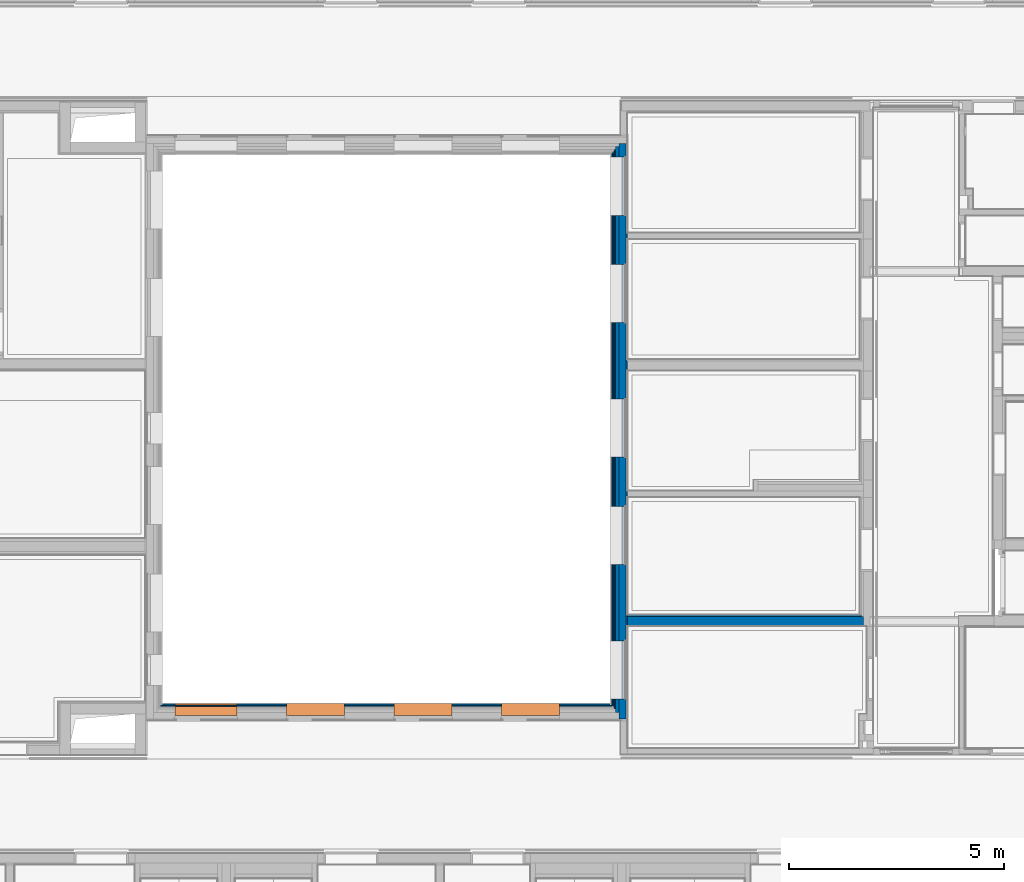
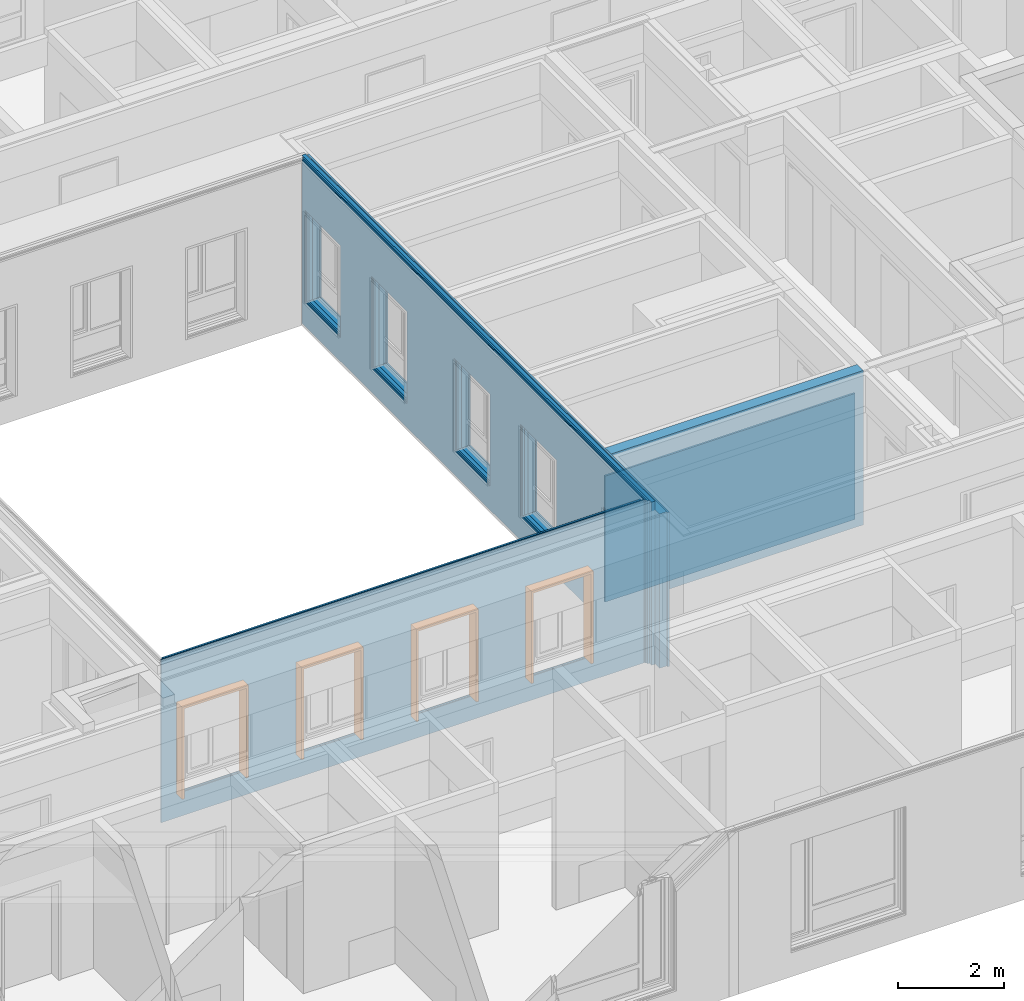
# One storey, part 47 of 222: 10 walls, 4 proxies, 38 openings.
"""IFC4 building model written with IfcOpenShell, lengths in metres."""

from ifc_helpers import new_model, entity, si_unit, converted_unit, derived_unit, frame, frame_2d, origin, origin_with_axes, place, context, subcontext, project, spatial, polyline, rectangle, outline, extrude, faceted_brep, material, element, fill, save


model = new_model("IFC4")

# Units and contexts
model_context = context("Model", 3, precision=1e-05, world=origin())
body_context = subcontext(model_context, "Body", "Model", "MODEL_VIEW")
ifc_project = project(units=[si_unit("LENGTHUNIT", "METRE"), si_unit("AREAUNIT", "SQUARE_METRE"), si_unit("VOLUMEUNIT", "CUBIC_METRE"), si_unit("MASSUNIT", "GRAM", prefix="KILO"), converted_unit("PLANEANGLEUNIT", "DEGREE", entity("IfcPlaneAngleMeasure", 0.0174532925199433), si_unit("PLANEANGLEUNIT", "RADIAN"), dimensions=[0, 0, 0, 0, 0, 0, 0]), derived_unit("THERMALTRANSMITTANCEUNIT", [(si_unit("POWERUNIT", "WATT"), 1), (si_unit("THERMODYNAMICTEMPERATUREUNIT", "KELVIN"), -1), (si_unit("LENGTHUNIT", "METRE"), -2)]), derived_unit("VOLUMETRICFLOWRATEUNIT", [(si_unit("LENGTHUNIT", "METRE"), 3), (converted_unit("TIMEUNIT", "hour", entity("IfcTimeMeasure", 3600.0), si_unit("TIMEUNIT", "SECOND"), dimensions=[0, 0, 1, 0, 0, 0, 0]), -1), (si_unit("LENGTHUNIT", "METRE"), -1)])], contexts=[model_context])

# Site, building, storey
site_placement = place(None, origin())
site = spatial("IfcSite", under=ifc_project, at=site_placement, Name="Psychiatrie Neubau Wunstorf", CompositionType="ELEMENT")
building_placement = place(site_placement, origin())
building = spatial("IfcBuilding", under=site, at=building_placement, Name="Neubau H2 Stationsgebäude", CompositionType="ELEMENT")
storey_placement = place(building_placement, frame((0.0, 0.0, 3.6)))
storey = spatial("IfcBuildingStorey", under=building, at=storey_placement, Name="H2 Ebene +1", CompositionType="ELEMENT", Elevation=3.6)

# Wall, openings
ifc_material_1 = material(Name="WA-LB")
wall_1_placement = place(storey_placement, frame((90.361, 8.41400000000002, 0.0), z_axis=(0.0, 0.0, 1.0), x_axis=(0.0, 1.0, 0.0)))
wall_1 = element("IfcWall", 1, at=wall_1_placement, inside=storey, material=ifc_material_1, context=body_context, shape_type="SweptSolid", body=[
    extrude(rectangle(XDim=13.5860065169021, YDim=0.0360000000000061, at=frame_2d((6.79300325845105, 0.018000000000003), x_axis=(1.0, 0.0))), origin_with_axes(), (0.0, 0.0, 1.0), 3.55),
])
opening_1_placement = place(wall_1_placement, frame((13.1105718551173, 0.0359999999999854, 0.55), z_axis=(0.0, -1.0, 0.0), x_axis=(0.0, 0.0, 1.0)))
element("IfcOpeningElement", 2, at=opening_1_placement, cuts=wall_1, Name="Fensteröffnung", ObjectType="Opening", context=body_context, shape_type="SweptSolid", body=[
    extrude(outline(polyline([(2.115, 1.35), (2.115, 0.0), (0.0, 0.0), (0.0, 1.35), (2.115, 1.35)])), origin_with_axes(), (0.0, 0.0, 1.0), 0.036),
])
opening_2_placement = place(wall_1_placement, frame((10.6106294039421, 0.0360000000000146, 0.55), z_axis=(0.0, -1.0, 0.0), x_axis=(0.0, 0.0, 1.0)))
element("IfcOpeningElement", 3, at=opening_2_placement, cuts=wall_1, Name="Fensteröffnung", ObjectType="Opening", context=body_context, shape_type="SweptSolid", body=[
    extrude(outline(polyline([(2.115, 1.35), (2.115, 0.0), (0.0, 0.0), (0.0, 1.35), (2.115, 1.35)])), origin_with_axes(), (0.0, 0.0, 1.0), 0.036),
])
opening_3_placement = place(wall_1_placement, frame((7.4860119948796, 0.036, 0.55), z_axis=(0.0, -1.0, 0.0), x_axis=(0.0, 0.0, 1.0)))
element("IfcOpeningElement", 4, at=opening_3_placement, cuts=wall_1, Name="Fensteröffnung", ObjectType="Opening", context=body_context, shape_type="SweptSolid", body=[
    extrude(outline(polyline([(2.115, 1.35), (2.115, 0.0), (0.0, 0.0), (0.0, 1.35), (2.115, 1.35)])), origin_with_axes(), (0.0, 0.0, 1.0), 0.036),
])
opening_4_placement = place(wall_1_placement, frame((4.98601199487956, 0.0359999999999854, 0.55), z_axis=(0.0, -1.0, 0.0), x_axis=(0.0, 0.0, 1.0)))
element("IfcOpeningElement", 5, at=opening_4_placement, cuts=wall_1, Name="Fensteröffnung", ObjectType="Opening", context=body_context, shape_type="SweptSolid", body=[
    extrude(outline(polyline([(2.115, 1.35), (2.115, 0.0), (0.0, 0.0), (0.0, 1.35), (2.115, 1.35)])), origin_with_axes(), (0.0, 0.0, 1.0), 0.036),
])
opening_5_placement = place(wall_1_placement, frame((1.86173687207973, 0.036, 0.55), z_axis=(0.0, -1.0, 0.0), x_axis=(0.0, 0.0, 1.0)))
element("IfcOpeningElement", 6, at=opening_5_placement, cuts=wall_1, Name="Fensteröffnung", ObjectType="Opening", context=body_context, shape_type="SweptSolid", body=[
    extrude(outline(polyline([(2.115, 1.35), (2.115, 0.0), (0.0, 0.0), (0.0, 1.35), (2.115, 1.35)])), origin_with_axes(), (0.0, 0.0, 1.0), 0.036),
])

ifc_material_2 = material(Name="WA-DL")
wall_2_placement = place(storey_placement, frame((90.325, 8.45000000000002, 0.0), z_axis=(0.0, 0.0, 1.0), x_axis=(0.0, 1.0, 0.0)))
wall_2 = element("IfcWall", 7, at=wall_2_placement, inside=storey, material=ifc_material_2, context=body_context, shape_type="SweptSolid", body=[
    extrude(rectangle(XDim=13.390001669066, YDim=0.16, at=frame_2d((6.69500083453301, 0.08), x_axis=(1.0, 0.0))), origin_with_axes(), (0.0, 0.0, 1.0), 3.55),
])
opening_6_placement = place(wall_2_placement, frame((1.82573687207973, 0.16, 0.55), z_axis=(0.0, -1.0, 0.0), x_axis=(0.0, 0.0, 1.0)))
element("IfcOpeningElement", 8, at=opening_6_placement, cuts=wall_2, Name="Fensteröffnung", ObjectType="Opening", context=body_context, shape_type="SweptSolid", body=[
    extrude(outline(polyline([(2.115, 1.35), (2.115, 0.0), (0.0, 0.0), (0.0, 1.35), (2.115, 1.35)])), origin_with_axes(), (0.0, 0.0, 1.0), 0.16),
])
opening_7_placement = place(wall_2_placement, frame((4.95001199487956, 0.159999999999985, 0.55), z_axis=(0.0, -1.0, 0.0), x_axis=(0.0, 0.0, 1.0)))
element("IfcOpeningElement", 9, at=opening_7_placement, cuts=wall_2, Name="Fensteröffnung", ObjectType="Opening", context=body_context, shape_type="SweptSolid", body=[
    extrude(outline(polyline([(2.115, 1.35), (2.115, 0.0), (0.0, 0.0), (0.0, 1.35), (2.115, 1.35)])), origin_with_axes(), (0.0, 0.0, 1.0), 0.16),
])
opening_8_placement = place(wall_2_placement, frame((7.45001199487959, 0.16, 0.55), z_axis=(0.0, -1.0, 0.0), x_axis=(0.0, 0.0, 1.0)))
element("IfcOpeningElement", 10, at=opening_8_placement, cuts=wall_2, Name="Fensteröffnung", ObjectType="Opening", context=body_context, shape_type="SweptSolid", body=[
    extrude(outline(polyline([(2.115, 1.35), (2.115, 0.0), (0.0, 0.0), (0.0, 1.35), (2.115, 1.35)])), origin_with_axes(), (0.0, 0.0, 1.0), 0.16),
])
opening_9_placement = place(wall_2_placement, frame((10.5746294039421, 0.160000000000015, 0.55), z_axis=(0.0, -1.0, 0.0), x_axis=(0.0, 0.0, 1.0)))
element("IfcOpeningElement", 11, at=opening_9_placement, cuts=wall_2, Name="Fensteröffnung", ObjectType="Opening", context=body_context, shape_type="SweptSolid", body=[
    extrude(outline(polyline([(2.115, 1.35), (2.115, 0.0), (0.0, 0.0), (0.0, 1.35), (2.115, 1.35)])), origin_with_axes(), (0.0, 0.0, 1.0), 0.16),
])
opening_10_placement = place(wall_2_placement, frame((13.0745718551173, 0.159999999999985, 0.55), z_axis=(0.0, -1.0, 0.0), x_axis=(0.0, 0.0, 1.0)))
element("IfcOpeningElement", 12, at=opening_10_placement, cuts=wall_2, Name="Fensteröffnung", ObjectType="Opening", context=body_context, shape_type="SweptSolid", body=[
    extrude(outline(polyline([(2.115, 1.35), (2.115, 0.0), (0.0, 0.0), (0.0, 1.35), (2.115, 1.35)])), origin_with_axes(), (0.0, 0.0, 1.0), 0.16),
])

ifc_material_3 = material(Name="WA-DL")
wall_3_placement = place(storey_placement, frame((90.165, 8.61000000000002, 0.0), z_axis=(0.0, 0.0, 1.0), x_axis=(0.0, 1.0, 0.0)))
wall_3 = element("IfcWall", 13, at=wall_3_placement, inside=storey, material=ifc_material_3, context=body_context, shape_type="SweptSolid", body=[
    extrude(rectangle(XDim=13.170001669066, YDim=0.08, at=frame_2d((6.585000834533, 0.04), x_axis=(1.0, 0.0))), origin_with_axes(), (0.0, 0.0, 1.0), 3.75),
])
opening_11_placement = place(wall_3_placement, frame((1.66573687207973, 0.08, 0.55), z_axis=(0.0, -1.0, 0.0), x_axis=(0.0, 0.0, 1.0)))
element("IfcOpeningElement", 14, at=opening_11_placement, cuts=wall_3, Name="Fensteröffnung", ObjectType="Opening", context=body_context, shape_type="SweptSolid", body=[
    extrude(outline(polyline([(2.115, 1.35), (2.115, 0.0), (0.0, 0.0), (0.0, 1.35), (2.115, 1.35)])), origin_with_axes(), (0.0, 0.0, 1.0), 0.08),
])
opening_12_placement = place(wall_3_placement, frame((4.79001199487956, 0.0799999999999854, 0.55), z_axis=(0.0, -1.0, 0.0), x_axis=(0.0, 0.0, 1.0)))
element("IfcOpeningElement", 15, at=opening_12_placement, cuts=wall_3, Name="Fensteröffnung", ObjectType="Opening", context=body_context, shape_type="SweptSolid", body=[
    extrude(outline(polyline([(2.115, 1.35), (2.115, 0.0), (0.0, 0.0), (0.0, 1.35), (2.115, 1.35)])), origin_with_axes(), (0.0, 0.0, 1.0), 0.08),
])
opening_13_placement = place(wall_3_placement, frame((7.29001199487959, 0.08, 0.55), z_axis=(0.0, -1.0, 0.0), x_axis=(0.0, 0.0, 1.0)))
element("IfcOpeningElement", 16, at=opening_13_placement, cuts=wall_3, Name="Fensteröffnung", ObjectType="Opening", context=body_context, shape_type="SweptSolid", body=[
    extrude(outline(polyline([(2.115, 1.35), (2.115, 0.0), (0.0, 0.0), (0.0, 1.35), (2.115, 1.35)])), origin_with_axes(), (0.0, 0.0, 1.0), 0.08),
])
opening_14_placement = place(wall_3_placement, frame((10.4146294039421, 0.0800000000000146, 0.55), z_axis=(0.0, -1.0, 0.0), x_axis=(0.0, 0.0, 1.0)))
element("IfcOpeningElement", 17, at=opening_14_placement, cuts=wall_3, Name="Fensteröffnung", ObjectType="Opening", context=body_context, shape_type="SweptSolid", body=[
    extrude(outline(polyline([(2.115, 1.35), (2.115, 0.0), (0.0, 0.0), (0.0, 1.35), (2.115, 1.35)])), origin_with_axes(), (0.0, 0.0, 1.0), 0.08),
])
opening_15_placement = place(wall_3_placement, frame((12.9145718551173, 0.0799999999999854, 0.55), z_axis=(0.0, -1.0, 0.0), x_axis=(0.0, 0.0, 1.0)))
element("IfcOpeningElement", 18, at=opening_15_placement, cuts=wall_3, Name="Fensteröffnung", ObjectType="Opening", context=body_context, shape_type="SweptSolid", body=[
    extrude(outline(polyline([(2.115, 1.35), (2.115, 0.0), (0.0, 0.0), (0.0, 1.35), (2.115, 1.35)])), origin_with_axes(), (0.0, 0.0, 1.0), 0.08),
])

ifc_material_4 = material(Name="WA-LB")
wall_4_placement = place(storey_placement, frame((90.085, 8.69000918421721, 0.0), z_axis=(0.0, 0.0, 1.0), x_axis=(0.0, 1.0, 0.0)))
wall_4 = element("IfcWall", 19, at=wall_4_placement, inside=storey, material=ifc_material_4, context=body_context, shape_type="SweptSolid", body=[
    extrude(rectangle(XDim=13.0099924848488, YDim=0.036, at=frame_2d((6.50499624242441, 0.018), x_axis=(1.0, 0.0))), origin_with_axes(), (0.0, 0.0, 1.0), 3.75),
])
opening_16_placement = place(wall_4_placement, frame((1.58572768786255, 0.036, 0.55), z_axis=(0.0, -1.0, 0.0), x_axis=(0.0, 0.0, 1.0)))
element("IfcOpeningElement", 20, at=opening_16_placement, cuts=wall_4, Name="Fensteröffnung", ObjectType="Opening", context=body_context, shape_type="SweptSolid", body=[
    extrude(outline(polyline([(2.115, 1.35), (2.115, 0.0), (0.0, 0.0), (0.0, 1.35), (2.115, 1.35)])), origin_with_axes(), (0.0, 0.0, 1.0), 0.036),
])
opening_17_placement = place(wall_4_placement, frame((4.71000281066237, 0.0359999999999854, 0.55), z_axis=(0.0, -1.0, 0.0), x_axis=(0.0, 0.0, 1.0)))
element("IfcOpeningElement", 21, at=opening_17_placement, cuts=wall_4, Name="Fensteröffnung", ObjectType="Opening", context=body_context, shape_type="SweptSolid", body=[
    extrude(outline(polyline([(2.115, 1.35), (2.115, 0.0), (0.0, 0.0), (0.0, 1.35), (2.115, 1.35)])), origin_with_axes(), (0.0, 0.0, 1.0), 0.036),
])
opening_18_placement = place(wall_4_placement, frame((7.21000281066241, 0.036, 0.55), z_axis=(0.0, -1.0, 0.0), x_axis=(0.0, 0.0, 1.0)))
element("IfcOpeningElement", 22, at=opening_18_placement, cuts=wall_4, Name="Fensteröffnung", ObjectType="Opening", context=body_context, shape_type="SweptSolid", body=[
    extrude(outline(polyline([(2.115, 1.35), (2.115, 0.0), (0.0, 0.0), (0.0, 1.35), (2.115, 1.35)])), origin_with_axes(), (0.0, 0.0, 1.0), 0.036),
])
opening_19_placement = place(wall_4_placement, frame((10.3346202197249, 0.0360000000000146, 0.55), z_axis=(0.0, -1.0, 0.0), x_axis=(0.0, 0.0, 1.0)))
element("IfcOpeningElement", 23, at=opening_19_placement, cuts=wall_4, Name="Fensteröffnung", ObjectType="Opening", context=body_context, shape_type="SweptSolid", body=[
    extrude(outline(polyline([(2.115, 1.35), (2.115, 0.0), (0.0, 0.0), (0.0, 1.35), (2.115, 1.35)])), origin_with_axes(), (0.0, 0.0, 1.0), 0.036),
])
opening_20_placement = place(wall_4_placement, frame((12.8345626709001, 0.0359999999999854, 0.55), z_axis=(0.0, -1.0, 0.0), x_axis=(0.0, 0.0, 1.0)))
element("IfcOpeningElement", 24, at=opening_20_placement, cuts=wall_4, Name="Fensteröffnung", ObjectType="Opening", context=body_context, shape_type="SweptSolid", body=[
    extrude(outline(polyline([(2.115, 1.35), (2.115, 0.0), (0.0, 0.0), (0.0, 1.35), (2.115, 1.35)])), origin_with_axes(), (0.0, 0.0, 1.0), 0.036),
])

ifc_material_5 = material(Name="WA-KL")
wall_5_placement = place(storey_placement, frame((90.049, 8.72600918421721, 0.0), z_axis=(0.0, 0.0, 1.0), x_axis=(0.0, 1.0, 0.0)))
wall_5 = element("IfcWall", 25, at=wall_5_placement, inside=storey, material=ifc_material_5, context=body_context, shape_type="SweptSolid", body=[
    extrude(rectangle(XDim=12.9379924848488, YDim=0.024, at=frame_2d((6.46899624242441, 0.012), x_axis=(1.0, 0.0))), origin_with_axes(), (0.0, 0.0, 1.0), 3.75),
])
opening_21_placement = place(wall_5_placement, frame((1.54972768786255, 0.024, 0.55), z_axis=(0.0, -1.0, 0.0), x_axis=(0.0, 0.0, 1.0)))
element("IfcOpeningElement", 26, at=opening_21_placement, cuts=wall_5, Name="Fensteröffnung", ObjectType="Opening", context=body_context, shape_type="SweptSolid", body=[
    extrude(outline(polyline([(2.115, 1.35), (2.115, 0.0), (0.0, 0.0), (0.0, 1.35), (2.115, 1.35)])), origin_with_axes(), (0.0, 0.0, 1.0), 0.024),
])
opening_22_placement = place(wall_5_placement, frame((4.67400281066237, 0.0239999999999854, 0.55), z_axis=(0.0, -1.0, 0.0), x_axis=(0.0, 0.0, 1.0)))
element("IfcOpeningElement", 27, at=opening_22_placement, cuts=wall_5, Name="Fensteröffnung", ObjectType="Opening", context=body_context, shape_type="SweptSolid", body=[
    extrude(outline(polyline([(2.115, 1.35), (2.115, 0.0), (0.0, 0.0), (0.0, 1.35), (2.115, 1.35)])), origin_with_axes(), (0.0, 0.0, 1.0), 0.024),
])
opening_23_placement = place(wall_5_placement, frame((7.17400281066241, 0.024, 0.55), z_axis=(0.0, -1.0, 0.0), x_axis=(0.0, 0.0, 1.0)))
element("IfcOpeningElement", 28, at=opening_23_placement, cuts=wall_5, Name="Fensteröffnung", ObjectType="Opening", context=body_context, shape_type="SweptSolid", body=[
    extrude(outline(polyline([(2.115, 1.35), (2.115, 0.0), (0.0, 0.0), (0.0, 1.35), (2.115, 1.35)])), origin_with_axes(), (0.0, 0.0, 1.0), 0.024),
])
opening_24_placement = place(wall_5_placement, frame((10.2986202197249, 0.0240000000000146, 0.55), z_axis=(0.0, -1.0, 0.0), x_axis=(0.0, 0.0, 1.0)))
element("IfcOpeningElement", 29, at=opening_24_placement, cuts=wall_5, Name="Fensteröffnung", ObjectType="Opening", context=body_context, shape_type="SweptSolid", body=[
    extrude(outline(polyline([(2.115, 1.35), (2.115, 0.0), (0.0, 0.0), (0.0, 1.35), (2.115, 1.35)])), origin_with_axes(), (0.0, 0.0, 1.0), 0.024),
])
opening_25_placement = place(wall_5_placement, frame((12.7985626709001, 0.0239999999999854, 0.55), z_axis=(0.0, -1.0, 0.0), x_axis=(0.0, 0.0, 1.0)))
element("IfcOpeningElement", 30, at=opening_25_placement, cuts=wall_5, Name="Fensteröffnung", ObjectType="Opening", context=body_context, shape_type="SweptSolid", body=[
    extrude(outline(polyline([(2.115, 1.35), (2.115, 0.0), (0.0, 0.0), (0.0, 1.35), (2.115, 1.35)])), origin_with_axes(), (0.0, 0.0, 1.0), 0.024),
])

ifc_material_6 = material(Name="WA-TL")
wall_6_placement = place(storey_placement, frame((90.025, 8.75000918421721, 0.0), z_axis=(0.0, 0.0, 1.0), x_axis=(0.0, 1.0, 0.0)))
wall_6 = element("IfcWall", 31, at=wall_6_placement, inside=storey, material=ifc_material_6, context=body_context, shape_type="SweptSolid", body=[
    extrude(rectangle(XDim=12.8899924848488, YDim=0.024, at=frame_2d((6.44499624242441, 0.012), x_axis=(1.0, 0.0))), origin_with_axes(), (0.0, 0.0, 1.0), 3.75),
])
opening_26_placement = place(wall_6_placement, frame((1.52572768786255, 0.024, 0.55), z_axis=(0.0, -1.0, 0.0), x_axis=(0.0, 0.0, 1.0)))
element("IfcOpeningElement", 32, at=opening_26_placement, cuts=wall_6, Name="Fensteröffnung", ObjectType="Opening", context=body_context, shape_type="SweptSolid", body=[
    extrude(outline(polyline([(2.115, 1.35), (2.115, 0.0), (0.0, 0.0), (0.0, 1.35), (2.115, 1.35)])), origin_with_axes(), (0.0, 0.0, 1.0), 0.024),
])
opening_27_placement = place(wall_6_placement, frame((4.65000281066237, 0.0239999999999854, 0.55), z_axis=(0.0, -1.0, 0.0), x_axis=(0.0, 0.0, 1.0)))
element("IfcOpeningElement", 33, at=opening_27_placement, cuts=wall_6, Name="Fensteröffnung", ObjectType="Opening", context=body_context, shape_type="SweptSolid", body=[
    extrude(outline(polyline([(2.115, 1.35), (2.115, 0.0), (0.0, 0.0), (0.0, 1.35), (2.115, 1.35)])), origin_with_axes(), (0.0, 0.0, 1.0), 0.024),
])
opening_28_placement = place(wall_6_placement, frame((7.15000281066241, 0.024, 0.55), z_axis=(0.0, -1.0, 0.0), x_axis=(0.0, 0.0, 1.0)))
element("IfcOpeningElement", 34, at=opening_28_placement, cuts=wall_6, Name="Fensteröffnung", ObjectType="Opening", context=body_context, shape_type="SweptSolid", body=[
    extrude(outline(polyline([(2.115, 1.35), (2.115, 0.0), (0.0, 0.0), (0.0, 1.35), (2.115, 1.35)])), origin_with_axes(), (0.0, 0.0, 1.0), 0.024),
])
opening_29_placement = place(wall_6_placement, frame((10.2746202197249, 0.0240000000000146, 0.55), z_axis=(0.0, -1.0, 0.0), x_axis=(0.0, 0.0, 1.0)))
element("IfcOpeningElement", 35, at=opening_29_placement, cuts=wall_6, Name="Fensteröffnung", ObjectType="Opening", context=body_context, shape_type="SweptSolid", body=[
    extrude(outline(polyline([(2.115, 1.35), (2.115, 0.0), (0.0, 0.0), (0.0, 1.35), (2.115, 1.35)])), origin_with_axes(), (0.0, 0.0, 1.0), 0.024),
])
opening_30_placement = place(wall_6_placement, frame((12.7745626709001, 0.0239999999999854, 0.55), z_axis=(0.0, -1.0, 0.0), x_axis=(0.0, 0.0, 1.0)))
element("IfcOpeningElement", 36, at=opening_30_placement, cuts=wall_6, Name="Fensteröffnung", ObjectType="Opening", context=body_context, shape_type="SweptSolid", body=[
    extrude(outline(polyline([(2.115, 1.35), (2.115, 0.0), (0.0, 0.0), (0.0, 1.35), (2.115, 1.35)])), origin_with_axes(), (0.0, 0.0, 1.0), 0.024),
])

ifc_material_7 = material(Name="WA-TL")
wall_7_placement = place(storey_placement, frame((79.499, 8.75000918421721, 0.0)))
wall_7 = element("IfcWall", 37, at=wall_7_placement, inside=storey, material=ifc_material_7, context=body_context, shape_type="SweptSolid", body=[
    extrude(rectangle(XDim=10.502, YDim=0.024, at=frame_2d((5.251, 0.012), x_axis=(1.0, 0.0))), origin_with_axes(), (0.0, 0.0, 1.0), 3.75),
])
opening_31_placement = place(wall_7_placement, frame((1.7808371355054, 0.024, 0.55), z_axis=(0.0, -1.0, 0.0), x_axis=(0.0, 0.0, 1.0)))
element("IfcOpeningElement", 38, at=opening_31_placement, cuts=wall_7, Name="Fensteröffnung", ObjectType="Opening", context=body_context, shape_type="SweptSolid", body=[
    extrude(outline(polyline([(2.115, 1.45), (2.115, 0.0), (0.0, 0.0), (0.0, 1.45), (2.115, 1.45)])), origin_with_axes(), (0.0, 0.0, 1.0), 0.024),
])
opening_32_placement = place(wall_7_placement, frame((9.2807, 0.024, 0.55), z_axis=(0.0, -1.0, 0.0), x_axis=(0.0, 0.0, 1.0)))
element("IfcOpeningElement", 39, at=opening_32_placement, cuts=wall_7, Name="Fensteröffnung", ObjectType="Opening", context=body_context, shape_type="SweptSolid", body=[
    extrude(outline(polyline([(2.115, 1.35), (2.115, 0.0), (0.0, 0.0), (0.0, 1.35), (2.115, 1.35)])), origin_with_axes(), (0.0, 0.0, 1.0), 0.024),
])
opening_33_placement = place(wall_7_placement, frame((6.7807, 0.024, 0.55), z_axis=(0.0, -1.0, 0.0), x_axis=(0.0, 0.0, 1.0)))
element("IfcOpeningElement", 40, at=opening_33_placement, cuts=wall_7, Name="Fensteröffnung", ObjectType="Opening", context=body_context, shape_type="SweptSolid", body=[
    extrude(outline(polyline([(2.115, 1.35), (2.115, 0.0), (0.0, 0.0), (0.0, 1.35), (2.115, 1.35)])), origin_with_axes(), (0.0, 0.0, 1.0), 0.024),
])
opening_34_placement = place(wall_7_placement, frame((4.2807, 0.024, 0.55), z_axis=(0.0, -1.0, 0.0), x_axis=(0.0, 0.0, 1.0)))
element("IfcOpeningElement", 41, at=opening_34_placement, cuts=wall_7, Name="Fensteröffnung", ObjectType="Opening", context=body_context, shape_type="SweptSolid", body=[
    extrude(outline(polyline([(2.115, 1.35), (2.115, 0.0), (0.0, 0.0), (0.0, 1.35), (2.115, 1.35)])), origin_with_axes(), (0.0, 0.0, 1.0), 0.024),
])

# Wall, openings, proxies
ifc_material_8 = material(Name="WA-HS")
wall_8_placement = place(storey_placement, frame((79.541, 8.77400918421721, 0.0)))
wall_8 = element("IfcWall", 42, at=wall_8_placement, inside=storey, material=ifc_material_8, context=body_context, shape_type="SweptSolid", body=[
    extrude(rectangle(XDim=10.418, YDim=0.042, at=frame_2d((5.209, 0.021), x_axis=(1.0, 0.0))), origin_with_axes(), (0.0, 0.0, 1.0), 3.75),
])
opening_35_placement = place(wall_8_placement, frame((1.7388371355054, 0.042, 0.55), z_axis=(0.0, -1.0, 0.0), x_axis=(0.0, 0.0, 1.0)))
opening_35 = element("IfcOpeningElement", 43, at=opening_35_placement, cuts=wall_8, Name="Fensteröffnung", ObjectType="Opening", context=body_context, shape_type="SweptSolid", body=[
    extrude(outline(polyline([(2.115, 1.45), (2.115, 0.0), (0.0, 0.0), (0.0, 1.45), (2.115, 1.45)])), origin_with_axes(), (0.0, 0.0, 1.0), 0.042),
])
opening_36_placement = place(wall_8_placement, frame((9.2387, 0.042, 0.55), z_axis=(0.0, -1.0, 0.0), x_axis=(0.0, 0.0, 1.0)))
opening_36 = element("IfcOpeningElement", 44, at=opening_36_placement, cuts=wall_8, Name="Fensteröffnung", ObjectType="Opening", context=body_context, shape_type="SweptSolid", body=[
    extrude(outline(polyline([(2.115, 1.35), (2.115, 0.0), (0.0, 0.0), (0.0, 1.35), (2.115, 1.35)])), origin_with_axes(), (0.0, 0.0, 1.0), 0.042),
])
opening_37_placement = place(wall_8_placement, frame((6.7387, 0.042, 0.55), z_axis=(0.0, -1.0, 0.0), x_axis=(0.0, 0.0, 1.0)))
opening_37 = element("IfcOpeningElement", 45, at=opening_37_placement, cuts=wall_8, Name="Fensteröffnung", ObjectType="Opening", context=body_context, shape_type="SweptSolid", body=[
    extrude(outline(polyline([(2.115, 1.35), (2.115, 0.0), (0.0, 0.0), (0.0, 1.35), (2.115, 1.35)])), origin_with_axes(), (0.0, 0.0, 1.0), 0.042),
])
opening_38_placement = place(wall_8_placement, frame((4.2387, 0.042, 0.55), z_axis=(0.0, -1.0, 0.0), x_axis=(0.0, 0.0, 1.0)))
opening_38 = element("IfcOpeningElement", 46, at=opening_38_placement, cuts=wall_8, Name="Fensteröffnung", ObjectType="Opening", context=body_context, shape_type="SweptSolid", body=[
    extrude(outline(polyline([(2.115, 1.35), (2.115, 0.0), (0.0, 0.0), (0.0, 1.35), (2.115, 1.35)])), origin_with_axes(), (0.0, 0.0, 1.0), 0.042),
])
ifc_material_9 = material(Name="WA-HS")
proxy_1_placement = place(opening_35_placement, frame((0.0, 1.45, 0.275)))
proxy_1 = element("IfcBuildingElementProxy", 47, at=proxy_1_placement, inside=storey, material=ifc_material_9, context=body_context, shape_type="Brep", body=[
    faceted_brep([(0.0, 0.0, 0.0), (0.0, 0.0, -0.275), (2.115, 0.0, -0.275), (2.115, 0.0, 0.0), (2.115, -1.45, -0.275), (2.115, -1.45, 0.0), (0.0, -0.0500000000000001, -0.275), (0.0, -0.0500000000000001, 0.0), (0.0, -1.45, 0.0), (0.0, -1.4, 0.0), (2.065, -1.4, 0.0), (2.065, -0.0500000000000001, 0.0), (2.065, -0.0500000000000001, -0.275), (2.065, -1.4, -0.275), (0.0, -1.4, -0.275), (0.0, -1.45, -0.275)], [[[0, 1, 2, 3]], [[2, 4, 5, 3]], [[6, 1, 0, 7]], [[7, 0, 3, 5, 8, 9, 10, 11]], [[1, 6, 12, 13, 14, 15, 4, 2]], [[6, 7, 11, 12]], [[15, 8, 5, 4]], [[15, 14, 9, 8]], [[9, 14, 13, 10]], [[10, 13, 12, 11]]], orient=[[False], [False], [False], [False], [False], [False], [False], [False], [False], [False]]),
])
fill(opening_35, proxy_1)
ifc_material_10 = material(Name="WA-HS")
proxy_2_placement = place(opening_36_placement, frame((0.0, 1.35, 0.275)))
proxy_2 = element("IfcBuildingElementProxy", 48, at=proxy_2_placement, inside=storey, material=ifc_material_10, context=body_context, shape_type="Brep", body=[
    faceted_brep([(0.0, -1.35, -0.275), (0.0, -1.35, 0.0), (2.115, -1.35, 0.0), (2.115, -1.35, -0.275), (0.0, -1.3, 0.0), (0.0, -1.3, -0.275), (2.065, -1.3, -0.275), (2.065, -1.3, 0.0), (2.115, 0.0, 0.0), (2.115, 0.0, -0.275), (0.0, 0.0, -0.275), (0.0, -0.05, -0.275), (2.065, -0.05, -0.275), (2.065, -0.05, 0.0), (0.0, -0.05, 0.0), (0.0, 0.0, 0.0)], [[[0, 1, 2, 3]], [[4, 5, 6, 7]], [[0, 5, 4, 1]], [[3, 2, 8, 9]], [[6, 5, 0, 3, 9, 10, 11, 12]], [[13, 14, 15, 8, 2, 1, 4, 7]], [[7, 6, 12, 13]], [[11, 14, 13, 12]], [[15, 10, 9, 8]], [[11, 10, 15, 14]]], orient=[[False], [False], [False], [False], [False], [False], [False], [False], [False], [False]]),
])
fill(opening_36, proxy_2)
ifc_material_11 = material(Name="WA-HS")
proxy_3_placement = place(opening_37_placement, frame((0.0, 1.35, 0.275)))
proxy_3 = element("IfcBuildingElementProxy", 49, at=proxy_3_placement, inside=storey, material=ifc_material_11, context=body_context, shape_type="Brep", body=[
    faceted_brep([(0.0, -1.35, -0.275), (0.0, -1.35, 0.0), (2.115, -1.35, 0.0), (2.115, -1.35, -0.275), (0.0, -1.3, 0.0), (0.0, -1.3, -0.275), (2.065, -1.3, -0.275), (2.065, -1.3, 0.0), (2.115, 0.0, 0.0), (2.115, 0.0, -0.275), (0.0, 0.0, -0.275), (0.0, -0.05, -0.275), (2.065, -0.05, -0.275), (2.065, -0.05, 0.0), (0.0, -0.05, 0.0), (0.0, 0.0, 0.0)], [[[0, 1, 2, 3]], [[4, 5, 6, 7]], [[0, 5, 4, 1]], [[3, 2, 8, 9]], [[6, 5, 0, 3, 9, 10, 11, 12]], [[13, 14, 15, 8, 2, 1, 4, 7]], [[7, 6, 12, 13]], [[11, 14, 13, 12]], [[15, 10, 9, 8]], [[11, 10, 15, 14]]], orient=[[False], [False], [False], [False], [False], [False], [False], [False], [False], [False]]),
])
fill(opening_37, proxy_3)
ifc_material_12 = material(Name="WA-HS")
proxy_4_placement = place(opening_38_placement, frame((0.0, 1.35, 0.275)))
proxy_4 = element("IfcBuildingElementProxy", 50, at=proxy_4_placement, inside=storey, material=ifc_material_12, context=body_context, shape_type="Brep", body=[
    faceted_brep([(0.0, -1.35, -0.275), (0.0, -1.35, 0.0), (2.115, -1.35, 0.0), (2.115, -1.35, -0.275), (0.0, -1.3, 0.0), (0.0, -1.3, -0.275), (2.065, -1.3, -0.275), (2.065, -1.3, 0.0), (2.115, 0.0, 0.0), (2.115, 0.0, -0.275), (0.0, 0.0, -0.275), (0.0, -0.05, -0.275), (2.065, -0.05, -0.275), (2.065, -0.05, 0.0), (0.0, -0.05, 0.0), (0.0, 0.0, 0.0)], [[[0, 1, 2, 3]], [[4, 5, 6, 7]], [[0, 5, 4, 1]], [[3, 2, 8, 9]], [[6, 5, 0, 3, 9, 10, 11, 12]], [[13, 14, 15, 8, 2, 1, 4, 7]], [[7, 6, 12, 13]], [[11, 14, 13, 12]], [[15, 10, 9, 8]], [[11, 10, 15, 14]]], orient=[[False], [False], [False], [False], [False], [False], [False], [False], [False], [False]]),
])
fill(opening_38, proxy_4)

# Walls
ifc_material_13 = material(Name="WI-LB")
wall_9_placement = place(storey_placement, frame((95.8004999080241, 10.8824998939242, 0.0), z_axis=(0.0, 0.0, 1.0), x_axis=(-1.0, 0.0, 0.0)))
element("IfcWall", 51, at=wall_9_placement, inside=storey, material=ifc_material_13, context=body_context, shape_type="SweptSolid", body=[
    extrude(rectangle(XDim=5.43949990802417, YDim=0.04, at=frame_2d((2.71974995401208, 0.02), x_axis=(1.0, 0.0))), origin_with_axes(), (0.0, 0.0, 1.0), 2.9),
])
ifc_material_14 = material(Name="WI-HW 60")
wall_10_placement = place(storey_placement, frame((95.8504999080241, 10.8424998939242, 0.0), z_axis=(0.0, 0.0, 1.0), x_axis=(-1.0, 0.0, 0.0)))
element("IfcWall", 52, at=wall_10_placement, inside=storey, material=ifc_material_14, context=body_context, shape_type="SweptSolid", body=[
    extrude(rectangle(XDim=5.48949990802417, YDim=0.232, at=frame_2d((2.74474995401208, 0.116), x_axis=(1.0, 0.0))), origin_with_axes(), (0.0, 0.0, 1.0), 3.55),
])

save(model, "model.ifc")
